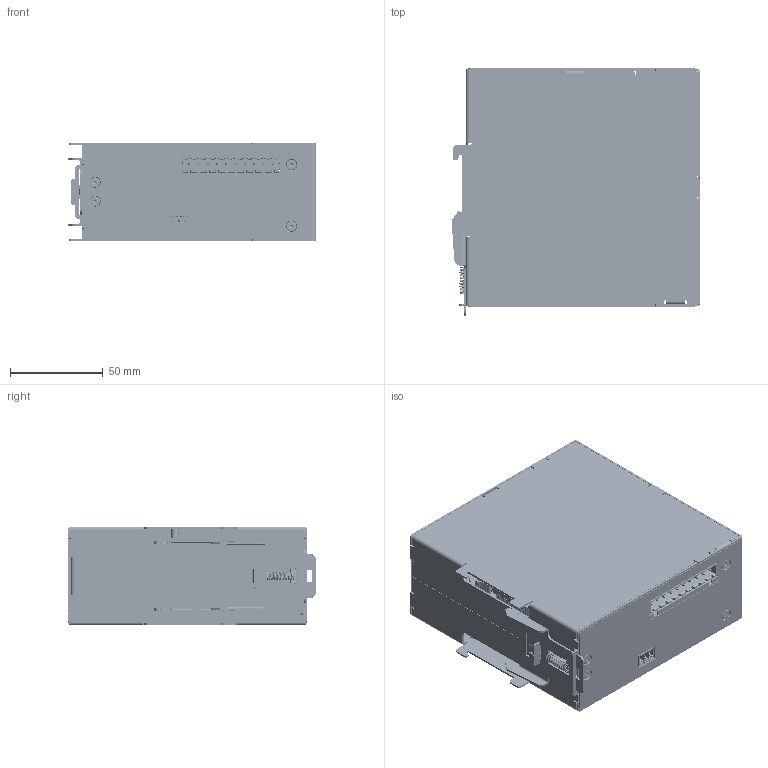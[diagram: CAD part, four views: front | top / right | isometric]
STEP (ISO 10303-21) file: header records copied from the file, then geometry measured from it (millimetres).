
FILE_DESCRIPTION (( 'STEP AP214' ), '1' );
FILE_NAME ('991-24577-00 Unbranded PIM Dumb Solid No Terminals.STEP', '2023-02-20T23:06:14', ( '' ), ( '' ), 'SwSTEP 2.0', 'SolidWorks 2019', '' );
FILE_SCHEMA (( 'AUTOMOTIVE_DESIGN' ));
Length unit declared in the file: millimetre
Products named in the file (1): 991-24577-00 Unbranded PIM Dumb Solid No Terminals
Bounding box: 134.18 x 133.25 x 53.23 mm (x, y, z)
Surface area: 244413.2 mm2 (no closed solid volume)
Topology: 0 solids, 173 shells, 14000 faces, 36469 edges, 23608 vertices
Faces by surface type: plane 9489, cylinder 2958, bspline 1229, cone 212, torus 88, sphere 24
Entity records: 638570 total; most frequent: CARTESIAN_POINT 173254, ORIENTED_EDGE 72786, DIRECTION 61638, EDGE_CURVE 36429, VECTOR 24646, LINE 24646, VERTEX_POINT 23608, AXIS2_PLACEMENT_3D 18496
